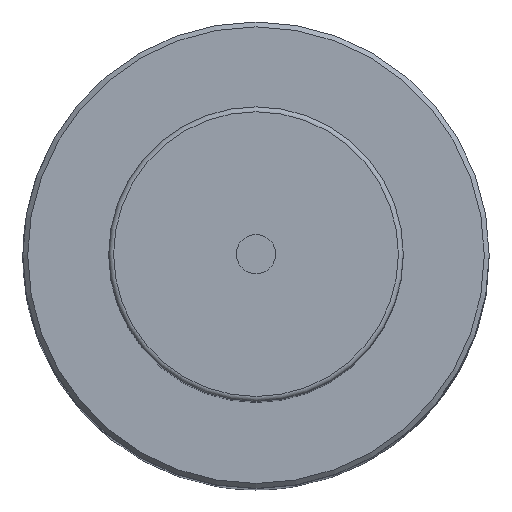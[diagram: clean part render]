
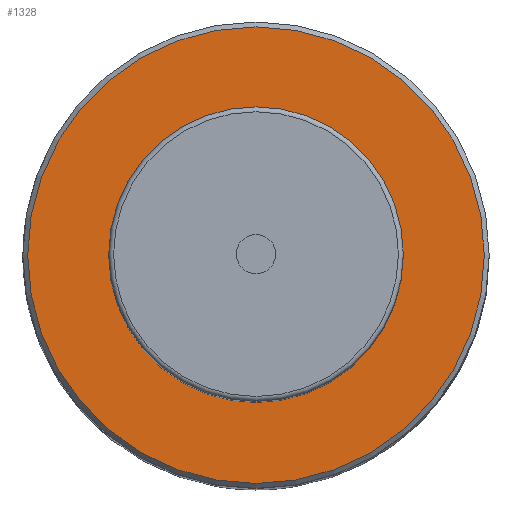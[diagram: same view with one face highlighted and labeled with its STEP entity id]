
A CAD part, top view. The second image highlights one B-rep face of the part: STEP entity #1328.
In plain terms, the highlighted planar face has unit normal (0, 0, 1).
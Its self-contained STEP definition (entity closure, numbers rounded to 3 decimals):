
#1308 = VERTEX_POINT('',#1309);
#1309 = CARTESIAN_POINT('',(46.5,0.,186.));
#1317 = EDGE_CURVE('',#1308,#1308,#1318,.T.);
#1318 = CIRCLE('',#1319,46.5);
#1319 = AXIS2_PLACEMENT_3D('',#1320,#1321,#1322);
#1320 = CARTESIAN_POINT('',(0.,0.,186.));
#1321 = DIRECTION('',(0.,0.,1.));
#1322 = DIRECTION('',(1.,0.,-0.));
#1328 = ADVANCED_FACE('',(#1329),#1332,.T.);
#1329 = FACE_BOUND('',#1330,.T.);
#1330 = EDGE_LOOP('',(#1331));
#1331 = ORIENTED_EDGE('',*,*,#1317,.T.);
#1332 = PLANE('',#1333);
#1333 = AXIS2_PLACEMENT_3D('',#1334,#1335,#1336);
#1334 = CARTESIAN_POINT('',(0.,0.,186.));
#1335 = DIRECTION('',(0.,0.,1.));
#1336 = DIRECTION('',(1.,0.,-0.));
